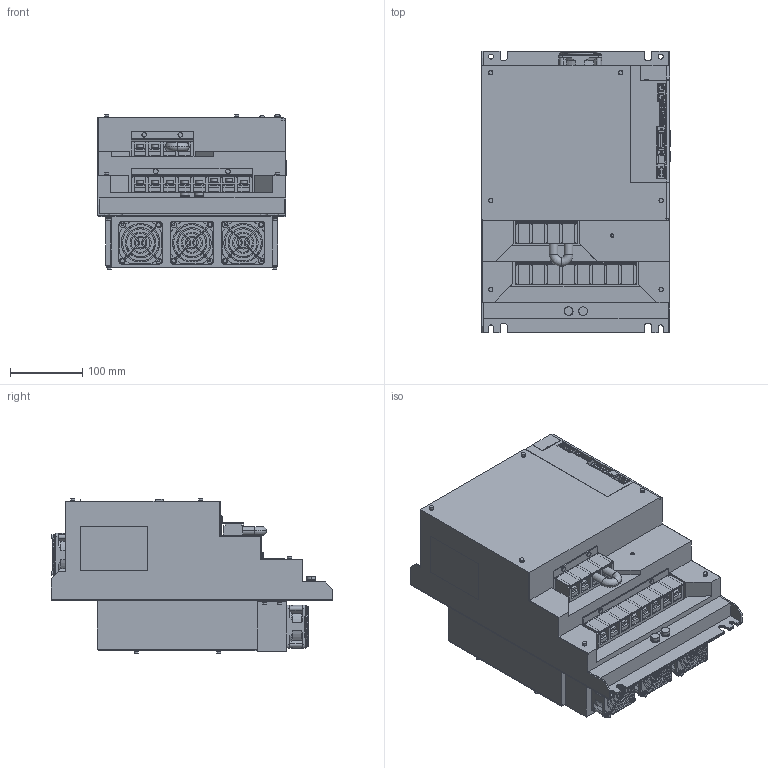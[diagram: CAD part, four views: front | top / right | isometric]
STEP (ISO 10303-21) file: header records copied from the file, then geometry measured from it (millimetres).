
FILE_DESCRIPTION (( 'STEP AP203' ), '1' );
FILE_NAME ('sgd7s_780a20a001.STEP', '2015-10-16T04:25:41', ( '匠エンジニアリング山之内' ), ( 'TAKUMI-Engniaring' ), 'SwSTEP 2.0', 'SolidWorks 2006303', '' );
FILE_SCHEMA (( 'CONFIG_CONTROL_DESIGN' ));
Products named in the file (8): sgd7s_780a20a001_cover; sgd7s_780a20a001_base; sgd7s_780a20a001; sgd7s_780a20a001_cover2; sgd7s_780a20a001_connector; sgd7s_780a20a001_cover3; sgd7s_780a20a001_cover4; sgd7s_780a20a001_terminal
Assembly tree (8 placements, depth 2):
  sgd7s_780a20a001
    sgd7s_780a20a001_terminal
    sgd7s_780a20a001_cover4
    sgd7s_780a20a001_cover2  x2
    sgd7s_780a20a001_cover3
    sgd7s_780a20a001_base
    sgd7s_780a20a001_connector
    sgd7s_780a20a001_cover
Bounding box: 260.6 x 390 x 214.6 mm (x, y, z)
Volume: 12103949.1 mm3; surface area: 1083944.8 mm2
Topology: 8 solids, 8 shells, 2812 faces, 7994 edges, 5251 vertices
Faces by surface type: plane 2144, cylinder 595, cone 68, torus 4, sphere 1
Entity records: 91530 total; most frequent: CARTESIAN_POINT 16413, ORIENTED_EDGE 15880, DIRECTION 14974, EDGE_CURVE 7940, VECTOR 6254, LINE 6254, VERTEX_POINT 5215, AXIS2_PLACEMENT_3D 4360
